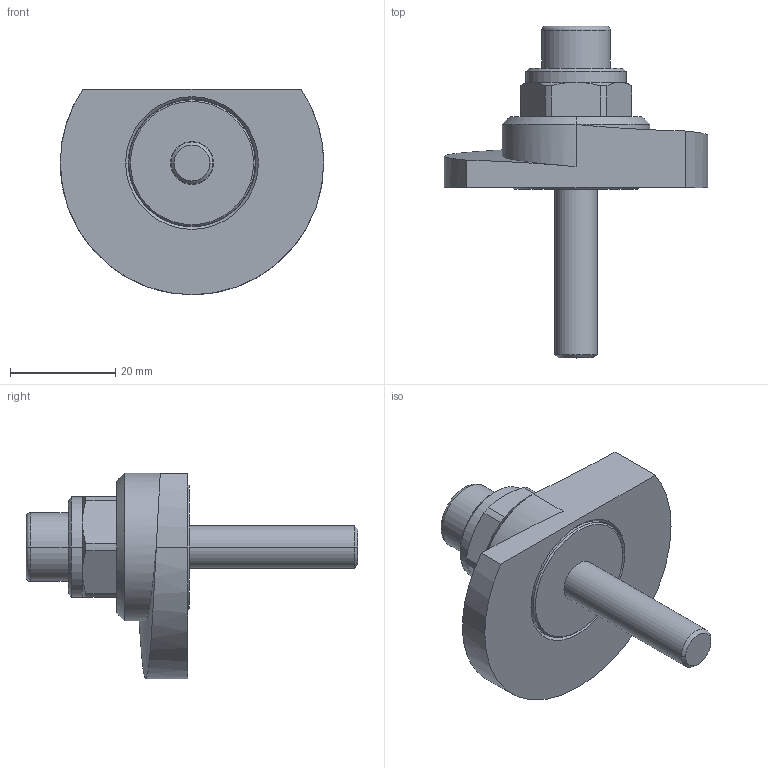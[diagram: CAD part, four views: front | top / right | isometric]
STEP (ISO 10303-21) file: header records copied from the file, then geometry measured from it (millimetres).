
FILE_DESCRIPTION (( 'STEP AP214' ), '1' );
FILE_NAME ('918.1-50-SKS-L-32.step', '2024-05-15T13:02:53', ( '' ), ( '' ), 'SwSTEP 2.0', 'SolidWorks 2022', '' );
FILE_SCHEMA (( 'AUTOMOTIVE_DESIGN' ));
Length unit declared in the file: millimetre
Products named in the file (1): 918.1-50-SKS-L-32
Bounding box: 50 x 63 x 39 mm (x, y, z)
Volume: 21710.5 mm3; surface area: 9132.8 mm2
Topology: 1 solids, 2 shells, 77 faces, 174 edges, 109 vertices
Faces by surface type: cylinder 25, plane 25, cone 22, bspline 3, torus 2
Entity records: 2537 total; most frequent: CARTESIAN_POINT 767, DIRECTION 379, ORIENTED_EDGE 348, EDGE_CURVE 174, AXIS2_PLACEMENT_3D 152, VERTEX_POINT 109, EDGE_LOOP 87, FACE_OUTER_BOUND 77
